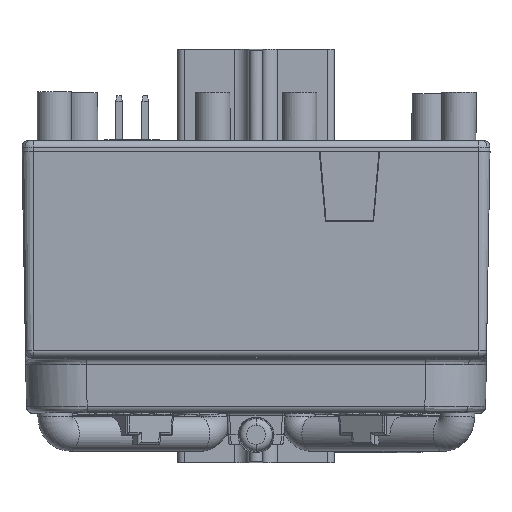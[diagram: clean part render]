
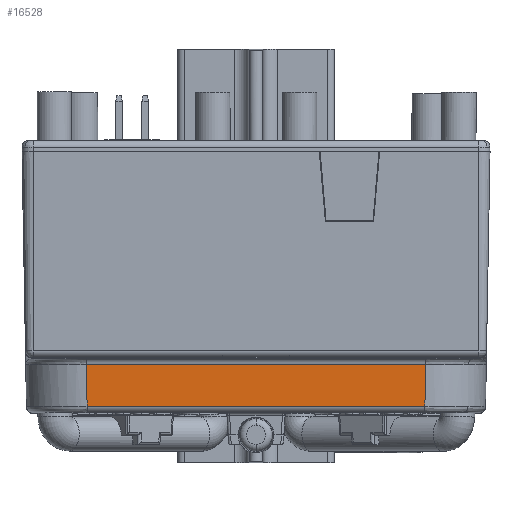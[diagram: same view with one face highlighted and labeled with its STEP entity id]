
A CAD part, top view. The second image highlights one B-rep face of the part: STEP entity #16528.
In plain terms, the highlighted planar face has unit normal (0, -0.018, 1).
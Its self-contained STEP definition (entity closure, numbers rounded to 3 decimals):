
#81 = CYLINDRICAL_SURFACE('',#82,4.4);
#82 = AXIS2_PLACEMENT_3D('',#83,#84,#85);
#83 = CARTESIAN_POINT('',(37.036,14.467,
    45.85));
#84 = DIRECTION('',(0.017,1.,0.017
    ));
#85 = DIRECTION('',(-1.,0.017,
    0.));
#422 = VERTEX_POINT('',#423);
#423 = CARTESIAN_POINT('',(37.036,14.409,
    50.25));
#508 = EDGE_CURVE('',#509,#422,#511,.T.);
#509 = VERTEX_POINT('',#510);
#510 = CARTESIAN_POINT('',(36.984,11.422,
    50.198));
#511 = SURFACE_CURVE('',#512,(#516,#523),.PCURVE_S1.);
#512 = LINE('',#513,#514);
#513 = CARTESIAN_POINT('',(37.046,14.978,
    50.26));
#514 = VECTOR('',#515,1.);
#515 = DIRECTION('',(0.017,1.,
    0.017));
#516 = PCURVE('',#81,#517);
#517 = DEFINITIONAL_REPRESENTATION('',(#518),#522);
#518 = LINE('',#519,#520);
#519 = CARTESIAN_POINT('',(1.571,0.588));
#520 = VECTOR('',#521,1.);
#521 = DIRECTION('',(0.,1.));
#522 = ( GEOMETRIC_REPRESENTATION_CONTEXT(2) 
PARAMETRIC_REPRESENTATION_CONTEXT() REPRESENTATION_CONTEXT('2D SPACE',''
  ) );
#523 = PCURVE('',#524,#529);
#524 = PLANE('',#525);
#525 = AXIS2_PLACEMENT_3D('',#526,#527,#528);
#526 = CARTESIAN_POINT('',(7.765,14.901,
    50.258));
#527 = DIRECTION('',(0.,-0.017,1.));
#528 = DIRECTION('',(0.,-1.,-0.017));
#529 = DEFINITIONAL_REPRESENTATION('',(#530),#534);
#530 = LINE('',#531,#532);
#531 = CARTESIAN_POINT('',(-0.077,29.281));
#532 = VECTOR('',#533,1.);
#533 = DIRECTION('',(-1.,0.017));
#534 = ( GEOMETRIC_REPRESENTATION_CONTEXT(2) 
PARAMETRIC_REPRESENTATION_CONTEXT() REPRESENTATION_CONTEXT('2D SPACE',''
  ) );
#647 = CYLINDRICAL_SURFACE('',#648,0.5);
#648 = AXIS2_PLACEMENT_3D('',#649,#650,#651);
#649 = CARTESIAN_POINT('',(7.765,11.431,
    49.698));
#650 = DIRECTION('',(1.,0.,0.));
#651 = DIRECTION('',(0.,0.,-1.));
#16470 = CYLINDRICAL_SURFACE('',#16471,0.5);
#16471 = AXIS2_PLACEMENT_3D('',#16472,#16473,#16474);
#16472 = CARTESIAN_POINT('',(7.765,14.401,
    50.75));
#16473 = DIRECTION('',(1.,0.,0.));
#16474 = DIRECTION('',(0.,0.,-1.));
#16528 = ADVANCED_FACE('',(#16529),#524,.T.);
#16529 = FACE_BOUND('',#16530,.T.);
#16530 = EDGE_LOOP('',(#16531,#16561,#16582,#16583));
#16531 = ORIENTED_EDGE('',*,*,#16532,.T.);
#16532 = EDGE_CURVE('',#16533,#16535,#16537,.T.);
#16533 = VERTEX_POINT('',#16534);
#16534 = CARTESIAN_POINT('',(12.434,14.409,
    50.25));
#16535 = VERTEX_POINT('',#16536);
#16536 = CARTESIAN_POINT('',(12.487,11.422,
    50.198));
#16537 = SURFACE_CURVE('',#16538,(#16542,#16549),.PCURVE_S1.);
#16538 = LINE('',#16539,#16540);
#16539 = CARTESIAN_POINT('',(12.494,11.008,
    50.191));
#16540 = VECTOR('',#16541,1.);
#16541 = DIRECTION('',(0.017,-1.,
    -0.017));
#16542 = PCURVE('',#524,#16543);
#16543 = DEFINITIONAL_REPRESENTATION('',(#16544),#16548);
#16544 = LINE('',#16545,#16546);
#16545 = CARTESIAN_POINT('',(3.894,4.728));
#16546 = VECTOR('',#16547,1.);
#16547 = DIRECTION('',(1.,0.017));
#16548 = ( GEOMETRIC_REPRESENTATION_CONTEXT(2) 
PARAMETRIC_REPRESENTATION_CONTEXT() REPRESENTATION_CONTEXT('2D SPACE',''
  ) );
#16549 = PCURVE('',#16550,#16555);
#16550 = CYLINDRICAL_SURFACE('',#16551,4.4);
#16551 = AXIS2_PLACEMENT_3D('',#16552,#16553,#16554);
#16552 = CARTESIAN_POINT('',(12.424,15.059,
    45.861));
#16553 = DIRECTION('',(0.017,-1.,
    -0.017));
#16554 = DIRECTION('',(0.,0.017,
    -1.));
#16555 = DEFINITIONAL_REPRESENTATION('',(#16556),#16560);
#16556 = LINE('',#16557,#16558);
#16557 = CARTESIAN_POINT('',(3.142,3.976));
#16558 = VECTOR('',#16559,1.);
#16559 = DIRECTION('',(0.,1.));
#16560 = ( GEOMETRIC_REPRESENTATION_CONTEXT(2) 
PARAMETRIC_REPRESENTATION_CONTEXT() REPRESENTATION_CONTEXT('2D SPACE',''
  ) );
#16561 = ORIENTED_EDGE('',*,*,#16562,.T.);
#16562 = EDGE_CURVE('',#16535,#509,#16563,.T.);
#16563 = SURFACE_CURVE('',#16564,(#16568,#16575),.PCURVE_S1.);
#16564 = LINE('',#16565,#16566);
#16565 = CARTESIAN_POINT('',(7.765,11.422,
    50.198));
#16566 = VECTOR('',#16567,1.);
#16567 = DIRECTION('',(1.,0.,0.));
#16568 = PCURVE('',#524,#16569);
#16569 = DEFINITIONAL_REPRESENTATION('',(#16570),#16574);
#16570 = LINE('',#16571,#16572);
#16571 = CARTESIAN_POINT('',(3.479,0.));
#16572 = VECTOR('',#16573,1.);
#16573 = DIRECTION('',(0.,1.));
#16574 = ( GEOMETRIC_REPRESENTATION_CONTEXT(2) 
PARAMETRIC_REPRESENTATION_CONTEXT() REPRESENTATION_CONTEXT('2D SPACE',''
  ) );
#16575 = PCURVE('',#647,#16576);
#16576 = DEFINITIONAL_REPRESENTATION('',(#16577),#16581);
#16577 = LINE('',#16578,#16579);
#16578 = CARTESIAN_POINT('',(3.159,0.));
#16579 = VECTOR('',#16580,1.);
#16580 = DIRECTION('',(0.,1.));
#16581 = ( GEOMETRIC_REPRESENTATION_CONTEXT(2) 
PARAMETRIC_REPRESENTATION_CONTEXT() REPRESENTATION_CONTEXT('2D SPACE',''
  ) );
#16582 = ORIENTED_EDGE('',*,*,#508,.T.);
#16583 = ORIENTED_EDGE('',*,*,#16584,.T.);
#16584 = EDGE_CURVE('',#422,#16533,#16585,.T.);
#16585 = SURFACE_CURVE('',#16586,(#16590,#16597),.PCURVE_S1.);
#16586 = LINE('',#16587,#16588);
#16587 = CARTESIAN_POINT('',(12.426,14.409,
    50.25));
#16588 = VECTOR('',#16589,1.);
#16589 = DIRECTION('',(-1.,0.,0.));
#16590 = PCURVE('',#524,#16591);
#16591 = DEFINITIONAL_REPRESENTATION('',(#16592),#16596);
#16592 = LINE('',#16593,#16594);
#16593 = CARTESIAN_POINT('',(0.491,4.66));
#16594 = VECTOR('',#16595,1.);
#16595 = DIRECTION('',(-0.,-1.));
#16596 = ( GEOMETRIC_REPRESENTATION_CONTEXT(2) 
PARAMETRIC_REPRESENTATION_CONTEXT() REPRESENTATION_CONTEXT('2D SPACE',''
  ) );
#16597 = PCURVE('',#16470,#16598);
#16598 = DEFINITIONAL_REPRESENTATION('',(#16599),#16603);
#16599 = LINE('',#16600,#16601);
#16600 = CARTESIAN_POINT('',(0.017,4.66));
#16601 = VECTOR('',#16602,1.);
#16602 = DIRECTION('',(0.,-1.));
#16603 = ( GEOMETRIC_REPRESENTATION_CONTEXT(2) 
PARAMETRIC_REPRESENTATION_CONTEXT() REPRESENTATION_CONTEXT('2D SPACE',''
  ) );
